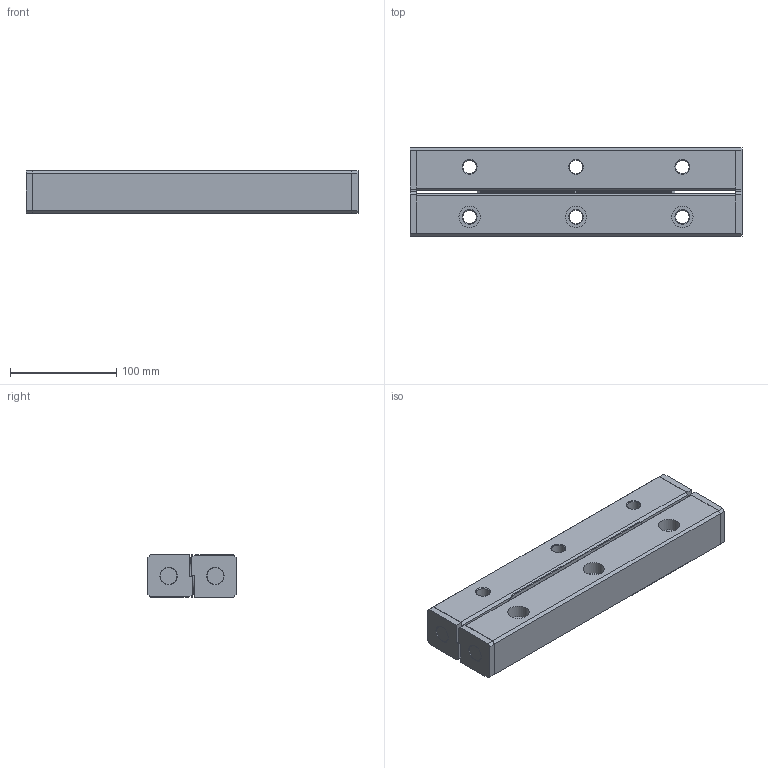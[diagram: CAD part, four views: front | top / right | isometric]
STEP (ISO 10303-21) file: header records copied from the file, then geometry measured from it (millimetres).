
FILE_DESCRIPTION(/* description */ ('STEP AP214'),/* implementation_level */ '2;1');
FILE_NAME(/* name */ 'VR18-300HX6Z(0)',/* time_stamp */ '2024-09-19T10:01:18+02:00',/* author */ ('License CC BY-ND 4.0'),/* organization */ ('CADENAS'),/* preprocessor_version */ 'ST-DEVELOPER v19.3',/* originating_system */ 'PARTsolutions',/* authorisation */ ' ');
FILE_SCHEMA (('AUTOMOTIVE_DESIGN {1 0 10303 214 3 1 1}'));
Length unit declared in the file: millimetre
Products named in the file (4): VR18-300HX6Z(0); VR18-300*6Z Roller guide; VR18-300*6Z Roller cage; VR18-300*6Z Roller guide; Top
Assembly tree (3 placements, depth 2):
  VR18-300HX6Z(0)
    VR18-300*6Z Roller guide
    VR18-300*6Z Roller cage
    VR18-300*6Z Roller guide; Top
Bounding box: 312 x 83 x 40 mm (x, y, z)
Volume: 905491.7 mm3; surface area: 137765 mm2
Topology: 3 solids, 3 shells, 192 faces, 488 edges, 312 vertices
Faces by surface type: plane 146, cone 28, cylinder 18
Full cylindrical faces by diameter (mm): 12.5 x6, 18 x6, 20 x6
Entity records: 5647 total; most frequent: CARTESIAN_POINT 950, DIRECTION 926, ORIENTED_EDGE 884, EDGE_CURVE 442, LINE 350, VECTOR 350, VERTEX_POINT 312, AXIS2_PLACEMENT_3D 288
